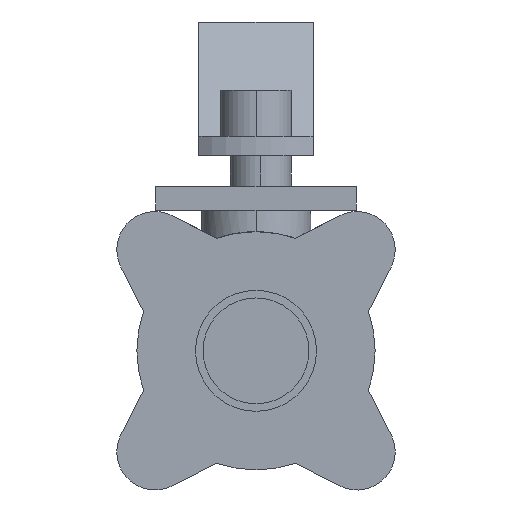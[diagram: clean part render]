
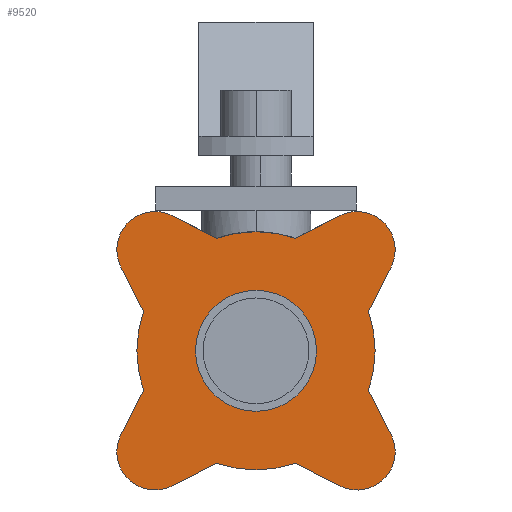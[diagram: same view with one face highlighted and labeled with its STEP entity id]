
A CAD part, left-side view. The second image highlights one B-rep face of the part: STEP entity #9520.
In plain terms, the highlighted planar face has unit normal (-1, 0, 0) as drawn and (1, 0, 0) by its records, which use the part's own axes.
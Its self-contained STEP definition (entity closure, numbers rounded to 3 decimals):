
#200=CARTESIAN_POINT('',(7.,10.84,
22.528));
#210=VERTEX_POINT('',#200);
#240=CARTESIAN_POINT('',(7.,18.059,
0.309));
#250=DIRECTION('',(0.,0.309,-0.951));
#260=VECTOR('',#250,1.);
#270=LINE('',#240,#260);
#280=CARTESIAN_POINT('',(7.,7.608,
32.472));
#290=VERTEX_POINT('',#280);
#300=EDGE_CURVE('',#290,#210,#270,.T.);
#860=CARTESIAN_POINT('',(7.,22.528,
10.84));
#870=DIRECTION('',(0.,-0.951,0.309));
#880=VECTOR('',#870,1.);
#890=LINE('',#860,#880);
#900=CARTESIAN_POINT('',(7.,32.472,
7.608));
#910=VERTEX_POINT('',#900);
#920=CARTESIAN_POINT('',(7.,22.528,
10.84));
#930=VERTEX_POINT('',#920);
#940=EDGE_CURVE('',#910,#930,#890,.T.);
#1550=CARTESIAN_POINT('',(7.,0.,0.));
#1560=DIRECTION('',(-1.,0.,0.));
#1570=DIRECTION('',(0.,0.,1.));
#1580=AXIS2_PLACEMENT_3D('',#1550,#1560,#1570);
#1590=CIRCLE('',#1580,25.);
#1600=EDGE_CURVE('',#210,#930,#1590,.T.);
#1850=CARTESIAN_POINT('',(7.,22.528,
-10.84));
#1860=VERTEX_POINT('',#1850);
#1890=CARTESIAN_POINT('',(7.,0.309,
-18.059));
#1900=DIRECTION('',(0.,-0.951,-0.309));
#1910=VECTOR('',#1900,1.);
#1920=LINE('',#1890,#1910);
#1930=CARTESIAN_POINT('',(7.,32.472,
-7.608));
#1940=VERTEX_POINT('',#1930);
#1950=EDGE_CURVE('',#1940,#1860,#1920,.T.);
#2110=CARTESIAN_POINT('',(7.,0.,30.));
#2120=DIRECTION('',(-1.,0.,0.));
#2130=DIRECTION('',(0.,1.,0.));
#2140=AXIS2_PLACEMENT_3D('',#2110,#2120,#2130);
#2150=CIRCLE('',#2140,8.);
#2160=CARTESIAN_POINT('',(7.,-7.608,
32.472));
#2170=VERTEX_POINT('',#2160);
#2180=EDGE_CURVE('',#2170,#290,#2150,.T.);
#3180=CARTESIAN_POINT('',(7.,-10.84,
-22.528));
#3190=VERTEX_POINT('',#3180);
#3220=CARTESIAN_POINT('',(7.,-18.059,
-0.309));
#3230=DIRECTION('',(0.,-0.309,0.951));
#3240=VECTOR('',#3230,1.);
#3250=LINE('',#3220,#3240);
#3260=CARTESIAN_POINT('',(7.,-7.608,
-32.472));
#3270=VERTEX_POINT('',#3260);
#3280=EDGE_CURVE('',#3270,#3190,#3250,.T.);
#4860=CARTESIAN_POINT('',(7.,-30.,0.));
#4870=DIRECTION('',(-1.,0.,0.));
#4880=DIRECTION('',(0.,1.,0.));
#4890=AXIS2_PLACEMENT_3D('',#4860,#4870,#4880);
#4900=CIRCLE('',#4890,8.);
#4910=CARTESIAN_POINT('',(7.,-32.472,
-7.608));
#4920=VERTEX_POINT('',#4910);
#4930=CARTESIAN_POINT('',(7.,-32.472,
7.608));
#4940=VERTEX_POINT('',#4930);
#4950=EDGE_CURVE('',#4920,#4940,#4900,.T.);
#6120=CARTESIAN_POINT('',(7.,-0.309,
-18.059));
#6130=DIRECTION('',(0.,0.951,-0.309));
#6140=VECTOR('',#6130,1.);
#6150=LINE('',#6120,#6140);
#6160=CARTESIAN_POINT('',(7.,-22.528,
-10.84));
#6170=VERTEX_POINT('',#6160);
#6180=EDGE_CURVE('',#4920,#6170,#6150,.T.);
#7330=CARTESIAN_POINT('',(7.,-0.309,
18.059));
#7340=DIRECTION('',(0.,-0.951,-0.309));
#7350=VECTOR('',#7340,1.);
#7360=LINE('',#7330,#7350);
#7370=CARTESIAN_POINT('',(7.,-22.528,
10.84));
#7380=VERTEX_POINT('',#7370);
#7390=EDGE_CURVE('',#7380,#4940,#7360,.T.);
#7820=CARTESIAN_POINT('',(7.,10.84,
-22.528));
#7830=DIRECTION('',(0.,0.309,0.951));
#7840=VECTOR('',#7830,1.);
#7850=LINE('',#7820,#7840);
#7860=CARTESIAN_POINT('',(7.,7.608,
-32.472));
#7870=VERTEX_POINT('',#7860);
#7880=CARTESIAN_POINT('',(7.,10.84,
-22.528));
#7890=VERTEX_POINT('',#7880);
#7900=EDGE_CURVE('',#7870,#7890,#7850,.T.);
#8150=CARTESIAN_POINT('',(7.,0.,0.));
#8160=DIRECTION('',(-1.,0.,0.));
#8170=DIRECTION('',(0.,0.,1.));
#8180=AXIS2_PLACEMENT_3D('',#8150,#8160,#8170);
#8190=CIRCLE('',#8180,25.);
#8200=EDGE_CURVE('',#1860,#7890,#8190,.T.);
#8310=CARTESIAN_POINT('',(7.,-18.059,
0.309));
#8320=DIRECTION('',(0.,-0.309,-0.951));
#8330=VECTOR('',#8320,1.);
#8340=LINE('',#8310,#8330);
#8350=CARTESIAN_POINT('',(7.,-10.84,
22.528));
#8360=VERTEX_POINT('',#8350);
#8370=EDGE_CURVE('',#2170,#8360,#8340,.T.);
#8550=CARTESIAN_POINT('',(7.,0.,0.));
#8560=DIRECTION('',(-1.,0.,0.));
#8570=DIRECTION('',(0.,0.,1.));
#8580=AXIS2_PLACEMENT_3D('',#8550,#8560,#8570);
#8590=CIRCLE('',#8580,25.);
#8600=EDGE_CURVE('',#7380,#8360,#8590,.T.);
#8960=CARTESIAN_POINT('',(7.,38.,
0.));
#8970=DIRECTION('',(1.,-0.,0.));
#8980=DIRECTION('',(0.,0.,-1.));
#8990=AXIS2_PLACEMENT_3D('',#8960,#8970,#8980);
#9000=PLANE('',#8990);
#9010=ORIENTED_EDGE('',*,*,#3280,.F.);
#9020=CARTESIAN_POINT('',(7.,0.,0.));
#9030=DIRECTION('',(-1.,0.,0.));
#9040=DIRECTION('',(0.,0.,1.));
#9050=AXIS2_PLACEMENT_3D('',#9020,#9030,#9040);
#9060=CIRCLE('',#9050,25.);
#9070=EDGE_CURVE('',#3190,#6170,#9060,.T.);
#9080=ORIENTED_EDGE('',*,*,#9070,.F.);
#9090=ORIENTED_EDGE('',*,*,#6180,.T.);
#9100=ORIENTED_EDGE('',*,*,#4950,.F.);
#9110=ORIENTED_EDGE('',*,*,#7390,.T.);
#9120=ORIENTED_EDGE('',*,*,#8600,.F.);
#9130=ORIENTED_EDGE('',*,*,#8370,.T.);
#9140=ORIENTED_EDGE('',*,*,#2180,.F.);
#9150=ORIENTED_EDGE('',*,*,#300,.F.);
#9160=ORIENTED_EDGE('',*,*,#1600,.F.);
#9170=ORIENTED_EDGE('',*,*,#940,.T.);
#9180=CARTESIAN_POINT('',(7.,30.,
0.));
#9190=DIRECTION('',(1.,0.,0.));
#9200=DIRECTION('',(0.,0.,1.));
#9210=AXIS2_PLACEMENT_3D('',#9180,#9190,#9200);
#9220=CIRCLE('',#9210,8.);
#9230=EDGE_CURVE('',#1940,#910,#9220,.T.);
#9240=ORIENTED_EDGE('',*,*,#9230,.T.);
#9250=ORIENTED_EDGE('',*,*,#1950,.F.);
#9260=ORIENTED_EDGE('',*,*,#8200,.F.);
#9270=ORIENTED_EDGE('',*,*,#7900,.T.);
#9280=CARTESIAN_POINT('',(7.,0.,-30.));
#9290=DIRECTION('',(-1.,0.,0.));
#9300=DIRECTION('',(0.,1.,0.));
#9310=AXIS2_PLACEMENT_3D('',#9280,#9290,#9300);
#9320=CIRCLE('',#9310,8.);
#9330=EDGE_CURVE('',#7870,#3270,#9320,.T.);
#9340=ORIENTED_EDGE('',*,*,#9330,.F.);
#9350=EDGE_LOOP('',(#9340,#9270,#9260,#9250,#9240,#9170,#9160,#9150,
#9140,#9130,#9120,#9110,#9100,#9090,#9080,#9010));
#9360=FACE_OUTER_BOUND('',#9350,.T.);
#9370=CARTESIAN_POINT('',(7.,0.,
0.));
#9380=DIRECTION('',(1.,0.,0.));
#9390=DIRECTION('',(0.,-0.707,
-0.707));
#9400=AXIS2_PLACEMENT_3D('',#9370,#9380,#9390);
#9410=CIRCLE('',#9400,12.7);
#9420=CARTESIAN_POINT('',(7.,8.98,
8.98));
#9430=VERTEX_POINT('',#9420);
#9440=CARTESIAN_POINT('',(7.,-8.98,
-8.98));
#9450=VERTEX_POINT('',#9440);
#9460=EDGE_CURVE('',#9430,#9450,#9410,.T.);
#9470=ORIENTED_EDGE('',*,*,#9460,.F.);
#9480=EDGE_CURVE('',#9450,#9430,#9410,.T.);
#9490=ORIENTED_EDGE('',*,*,#9480,.F.);
#9500=EDGE_LOOP('',(#9490,#9470));
#9510=FACE_BOUND('',#9500,.T.);
#9520=ADVANCED_FACE('',(#9360,#9510),#9000,.T.);
